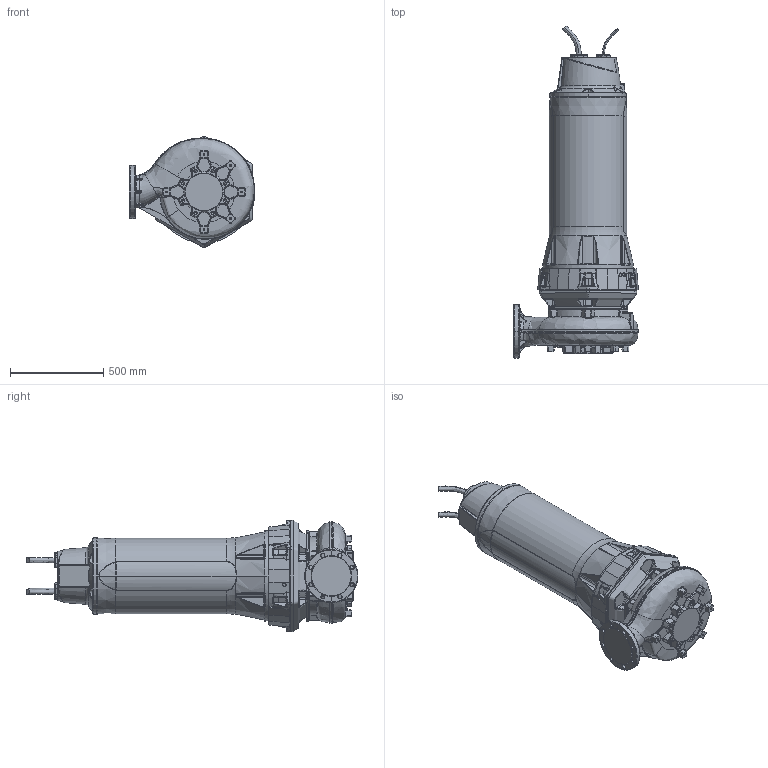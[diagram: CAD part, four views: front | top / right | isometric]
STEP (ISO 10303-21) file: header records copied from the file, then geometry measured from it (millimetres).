
FILE_DESCRIPTION (( 'STEP AP214' ), '1' );
FILE_NAME ('PE5_XFP150J-CH2_MOTOR OK_B_NG2.STEP', '2017-03-16T05:38:38', ( '' ), ( '' ), 'SwSTEP 2.0', 'SolidWorks 2017', '' );
FILE_SCHEMA (( 'AUTOMOTIVE_DESIGN' ));
Length unit declared in the file: millimetre
Products named in the file (1): PE5_XFP150J-CH2_MOTOR OK_B_NG2
Bounding box: 670.87 x 1779.08 x 595.59 mm (x, y, z)
Volume: 231343654.5 mm3; surface area: 2954142.5 mm2
Topology: 1 solids, 1 shells, 2311 faces, 5646 edges, 3264 vertices
Faces by surface type: bspline 887, cylinder 447, plane 378, torus 302, cone 231, sphere 66
Entity records: 182259 total; most frequent: CARTESIAN_POINT 110008, ORIENTED_EDGE 11062, DIRECTION 8232, EDGE_CURVE 5531, AXIS2_PLACEMENT_3D 3496, VERTEX_POINT 3264, EDGE_LOOP 2369, UNCERTAINTY_MEASURE_WITH_UNIT 2314
